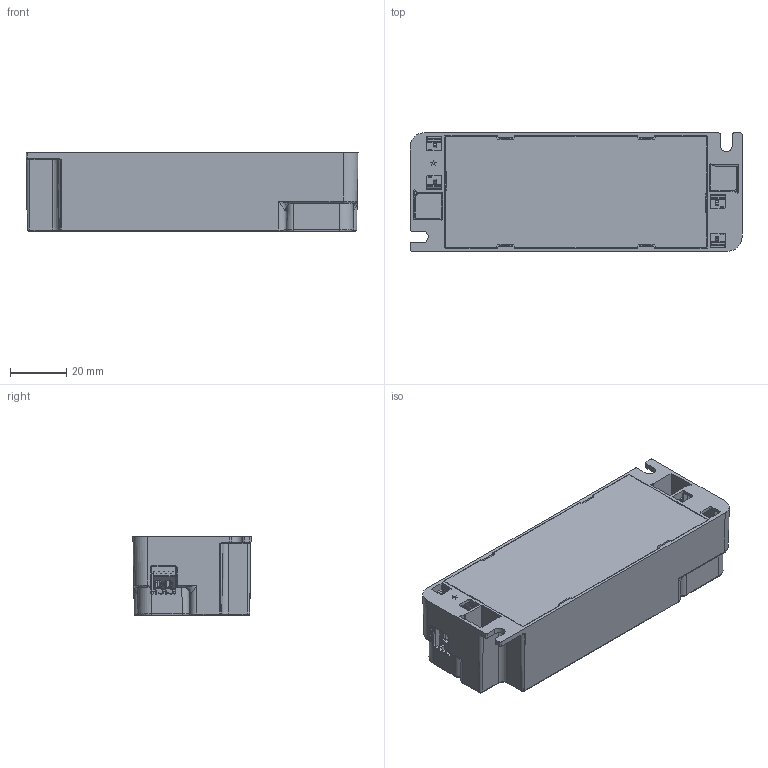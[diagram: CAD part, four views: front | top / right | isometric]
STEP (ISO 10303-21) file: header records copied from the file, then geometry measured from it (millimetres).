
FILE_DESCRIPTION(/* description */ (''),/* implementation_level */ '2;1');
FILE_NAME(/* name */ 'C:\Users\310079203\OneDrive - Signify\work\project\Y2024\P0047242_Certa Panel G5_Wei Xiang\RD\G5\TPD\SH10-Panel G5.stp',/* time_stamp */ '2024-10-09T10:50:21+08:00',/* author */ ('310079203'),/* organization */ (''),/* preprocessor_version */ 'ST-DEVELOPER v18.1',/* originating_system */ 'Autodesk Inventor 2022',/* authorisation */ '');
FILE_SCHEMA (('AUTOMOTIVE_DESIGN { 1 0 10303 214 3 1 1 }'));
Products named in the file (1): SH10-Panel G5
Bounding box: 118 x 42 x 28 mm (x, y, z)
Volume: 92201.1 mm3; surface area: 58384.7 mm2
Topology: 1 solids, 1 shells, 3456 faces, 9616 edges, 6119 vertices
Faces by surface type: plane 2074, cylinder 802, bspline 352, torus 108, sphere 74, cone 46
Full cylindrical faces by diameter (mm): 0.34 x2, 0.389 x2, 0.9 x2, 1 x4, 1.21 x2, 1.24 x2, 1.492 x10, 1.57 x10, 2 x2, 2.2 x2, 6.9 x1
Entity records: 151702 total; most frequent: CARTESIAN_POINT 60611, ORIENTED_EDGE 19124, DIRECTION 17214, EDGE_CURVE 9562, LINE 6718, VECTOR 6718, VERTEX_POINT 6121, AXIS2_PLACEMENT_3D 5248
